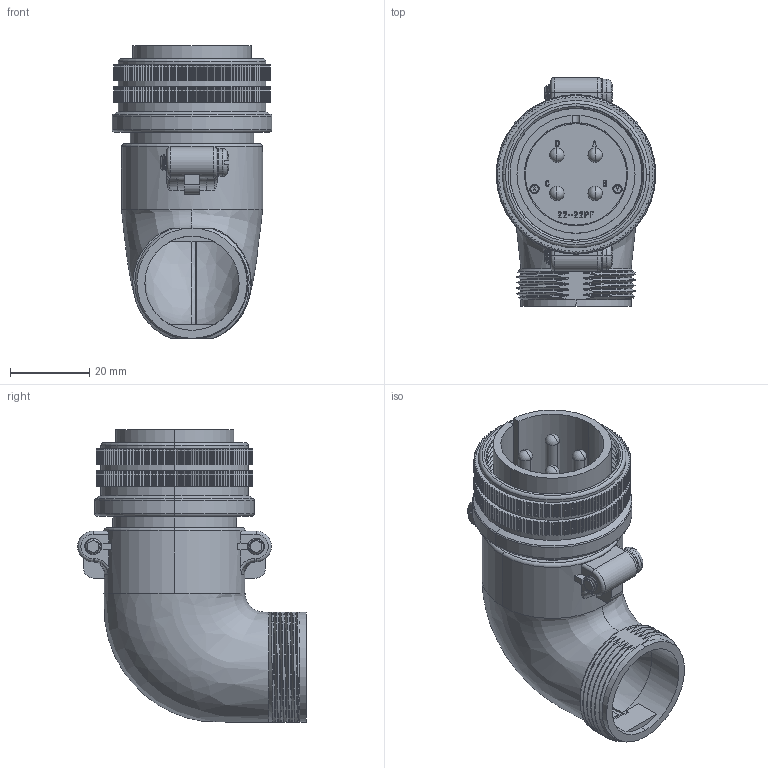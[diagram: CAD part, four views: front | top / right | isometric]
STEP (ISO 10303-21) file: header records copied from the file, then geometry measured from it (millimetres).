
FILE_DESCRIPTION (( 'STEP AP203' ), '1' );
FILE_NAME ('DMS3108B22-22P.STEP', '2017-02-23T01:17:14', ( '' ), ( '' ), 'SwSTEP 2.0', 'SolidWorks 2015', '' );
FILE_SCHEMA (( 'CONFIG_CONTROL_DESIGN' ));
Products named in the file (1): DMS3108B22-22P
Bounding box: 40.43 x 57.85 x 74.08 mm (x, y, z)
Volume: 33171.7 mm3; surface area: 32217.2 mm2
Topology: 1 solids, 1 shells, 3534 faces, 10329 edges, 6850 vertices
Faces by surface type: cylinder 1921, plane 1262, bspline 293, torus 25, cone 21, sphere 12
Entity records: 148069 total; most frequent: CARTESIAN_POINT 53227, ORIENTED_EDGE 20626, DIRECTION 19850, EDGE_CURVE 10313, AXIS2_PLACEMENT_3D 7103, VERTEX_POINT 6842, VECTOR 5644, LINE 5644
